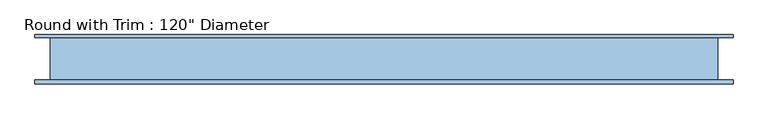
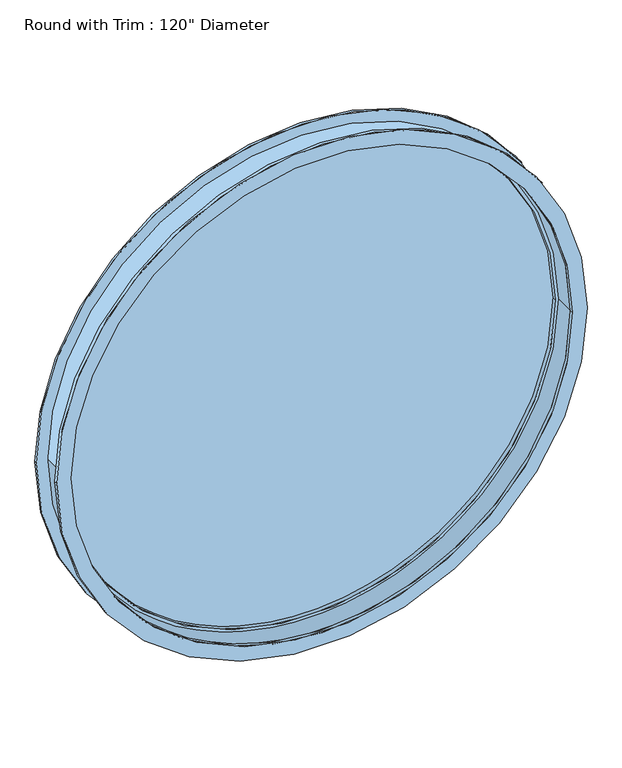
"""IFC4 building model written with IfcOpenShell, lengths in millimetres: window geometry."""

from ifc_helpers import new_model, si_unit, point, frame, frame_2d, origin, place, context, project, spatial, circle_curve, trimmed, segment, composite_curve, outline, extrude, source, transform, mapped, element, save


def window_8fa304ae(model_context):
    return source(origin(), model_context, "Body", "SweptSolid", [
        extrude(outline(composite_curve([segment(trimmed(circle_curve(frame_2d((1981.2, 1066.8)), 1593.85), [point((1981.2, -527.05))], [point((1981.2, 2660.65))], False, "CARTESIAN"), True, "CONTINUOUS"), segment(trimmed(circle_curve(frame_2d((1981.2, 1066.8)), 1593.85), [point((1981.2, 2660.65))], [point((1981.2, -527.05))], False, "CARTESIAN"), True, "CONTINUOUS")], self_intersect=False), holes=[composite_curve([segment(trimmed(circle_curve(frame_2d((1981.2, 1066.8)), 1504.95), [point((1981.2, -438.15))], [point((1981.2, 2571.75))], True, "CARTESIAN"), True, "CONTINUOUS"), segment(trimmed(circle_curve(frame_2d((1981.2, 1066.8)), 1504.95), [point((1981.2, 2571.75))], [point((1981.2, -438.15))], True, "CARTESIAN"), True, "CONTINUOUS")], self_intersect=False)]), frame((0.0, -115.8875, 0.0), z_axis=(0.0, 1.0, 0.0), x_axis=(0.0, 0.0, 1.0)), (0.0, 0.0, 1.0), 19.05),
        extrude(outline(composite_curve([segment(trimmed(circle_curve(frame_2d((1981.2, 1066.8)), 1593.85), [point((1981.2, -527.05))], [point((1981.2, 2660.65))], False, "CARTESIAN"), True, "CONTINUOUS"), segment(trimmed(circle_curve(frame_2d((1981.2, 1066.8)), 1593.85), [point((1981.2, 2660.65))], [point((1981.2, -527.05))], False, "CARTESIAN"), True, "CONTINUOUS")], self_intersect=False), holes=[composite_curve([segment(trimmed(circle_curve(frame_2d((1981.2, 1066.8)), 1504.95), [point((1981.2, -438.15))], [point((1981.2, 2571.75))], True, "CARTESIAN"), True, "CONTINUOUS"), segment(trimmed(circle_curve(frame_2d((1981.2, 1066.8)), 1504.95), [point((1981.2, 2571.75))], [point((1981.2, -438.15))], True, "CARTESIAN"), True, "CONTINUOUS")], self_intersect=False)]), frame((0.0, 96.8375, 0.0), z_axis=(0.0, 1.0, 0.0), x_axis=(0.0, 0.0, 1.0)), (0.0, 0.0, 1.0), 12.7),
        extrude(outline(composite_curve([segment(trimmed(circle_curve(frame_2d((1981.2, 1066.8)), 1485.9), [point((1981.2, -419.1))], [point((1981.2, 2552.7))], False, "CARTESIAN"), True, "CONTINUOUS"), segment(trimmed(circle_curve(frame_2d((1981.2, 1066.8)), 1485.9), [point((1981.2, 2552.7))], [point((1981.2, -419.1))], False, "CARTESIAN"), True, "CONTINUOUS")], self_intersect=False)), frame((0.0, 52.3875, 0.0), z_axis=(0.0, 1.0, 0.0), x_axis=(0.0, 0.0, 1.0)), (0.0, 0.0, 1.0), 12.7),
        extrude(outline(composite_curve([segment(trimmed(circle_curve(frame_2d((1981.2, 1066.8)), 1504.95), [point((1981.2, -438.15))], [point((1981.2, 2571.75))], False, "CARTESIAN"), True, "CONTINUOUS"), segment(trimmed(circle_curve(frame_2d((1981.2, 1066.8)), 1504.95), [point((1981.2, 2571.75))], [point((1981.2, -438.15))], False, "CARTESIAN"), True, "CONTINUOUS")], self_intersect=False), holes=[composite_curve([segment(trimmed(circle_curve(frame_2d((1981.2, 1066.8)), 1485.9), [point((1981.2, -419.1))], [point((1981.2, 2552.7))], True, "CARTESIAN"), True, "CONTINUOUS"), segment(trimmed(circle_curve(frame_2d((1981.2, 1066.8)), 1485.9), [point((1981.2, 2552.7))], [point((1981.2, -419.1))], True, "CARTESIAN"), True, "CONTINUOUS")], self_intersect=False)]), frame((0.0, 26.9875, 0.0), z_axis=(0.0, 1.0, 0.0), x_axis=(0.0, 0.0, 1.0)), (0.0, 0.0, 1.0), 50.8),
        extrude(outline(composite_curve([segment(trimmed(circle_curve(frame_2d((1981.2, 1066.8)), 1524.0), [point((1981.2, -457.2))], [point((1981.2, 2590.8))], False, "CARTESIAN"), True, "CONTINUOUS"), segment(trimmed(circle_curve(frame_2d((1981.2, 1066.8)), 1524.0), [point((1981.2, 2590.8))], [point((1981.2, -457.2))], False, "CARTESIAN"), True, "CONTINUOUS")], self_intersect=False), holes=[composite_curve([segment(trimmed(circle_curve(frame_2d((1981.2, 1066.8)), 1504.95), [point((1981.2, -438.15))], [point((1981.2, 2571.75))], True, "CARTESIAN"), True, "CONTINUOUS"), segment(trimmed(circle_curve(frame_2d((1981.2, 1066.8)), 1504.95), [point((1981.2, 2571.75))], [point((1981.2, -438.15))], True, "CARTESIAN"), True, "CONTINUOUS")], self_intersect=False)]), frame((0.0, -96.8375, 0.0), z_axis=(0.0, 1.0, 0.0), x_axis=(0.0, 0.0, 1.0)), (0.0, 0.0, 1.0), 193.675),
    ])


if __name__ == "__main__":
    model = new_model("IFC4")
    model_context = context("Model", 3, world=origin())
    ifc_project = project(units=[si_unit("LENGTHUNIT", "METRE", prefix="MILLI")], contexts=[model_context])
    site = spatial("IfcSite", under=ifc_project)
    building = spatial("IfcBuilding", under=site)
    placement = place(None, origin())
    window_shape = window_8fa304ae(model_context)
    element("IfcWindow", 1, ObjectType="Round with Trim : 120\" Diameter", at=placement, inside=building, context=model_context, shape_type="MappedRepresentation", body=[
        mapped(window_shape, transform((0.0, 0.0, 0.0), x_axis=(1.0, 0.0, 0.0), y_axis=(0.0, 1.0, 0.0), z_axis=(0.0, 0.0, 1.0))),
    ])
    save(model, "model.ifc")
